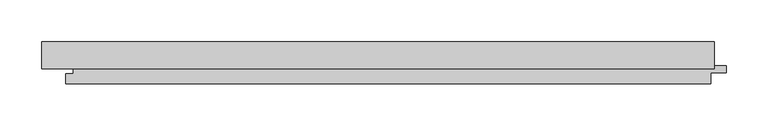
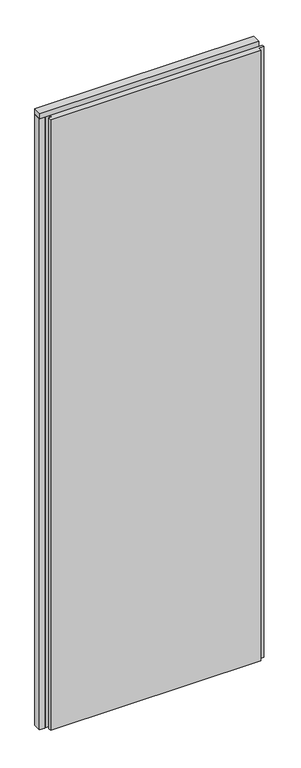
"""IFC4 building model written with IfcOpenShell, lengths in millimetres: plate geometry, Trimo_Qbiss Screen_Normal Panel-VERTICAL : HR - FB-F."""

from ifc_helpers import new_model, si_unit, frame, origin, place, context, project, spatial, polyline, outline, extrude, source, transform, mapped, element, save


def plate_b3ead343(model_context):
    return source(origin(), model_context, "Body", "SweptSolid", [
        extrude(outline(polyline([(-338.0, 97.0), (-338.0, 126.0), (-319.0, 126.0), (-319.0, 97.0), (-338.0, 97.0)])), frame((0.0, 0.0, 12.5), z_axis=(0.0, 0.0, 1.0), x_axis=(1.0, 0.0, 0.0)), (0.0, 0.0, 1.0), 2375.0),
        extrude(outline(polyline([(-338.0, 93.9), (-338.0, 126.0), (467.0, 126.0), (467.0, 93.9), (-338.0, 93.9)])), frame((0.0, 0.0, 2390.5), z_axis=(0.0, 0.0, 1.0), x_axis=(1.0, 0.0, 0.0)), (0.0, 0.0, 1.0), 19.0),
        extrude(outline(polyline([(463.0, 97.0), (481.5, 97.0), (481.5, 89.0), (463.0, 89.0), (463.0, 76.0), (-309.0, 76.0), (-309.0, 88.0), (-300.5, 88.0), (-300.5, 98.0), (-316.0, 98.0), (-316.0, 126.0), (463.0, 126.0), (463.0, 97.0)])), frame((0.0, 0.0, 12.5), z_axis=(0.0, 0.0, 1.0), x_axis=(1.0, 0.0, 0.0)), (0.0, 0.0, 1.0), 2375.0),
    ])


if __name__ == "__main__":
    model = new_model("IFC4")
    model_context = context("Model", 3, world=origin())
    ifc_project = project(units=[si_unit("LENGTHUNIT", "METRE", prefix="MILLI")], contexts=[model_context])
    site = spatial("IfcSite", under=ifc_project)
    building = spatial("IfcBuilding", under=site)
    placement = place(None, origin())
    plate_shape = plate_b3ead343(model_context)
    element("IfcPlate", 1, ObjectType="Trimo_Qbiss Screen_Normal Panel-VERTICAL : HR - FB-F", at=placement, inside=building, context=model_context, shape_type="MappedRepresentation", body=[
        mapped(plate_shape, transform((0.0, 0.0, 0.0), x_axis=(1.0, 0.0, 0.0), y_axis=(0.0, 1.0, 0.0), z_axis=(0.0, 0.0, 1.0))),
    ])
    save(model, "model.ifc")
